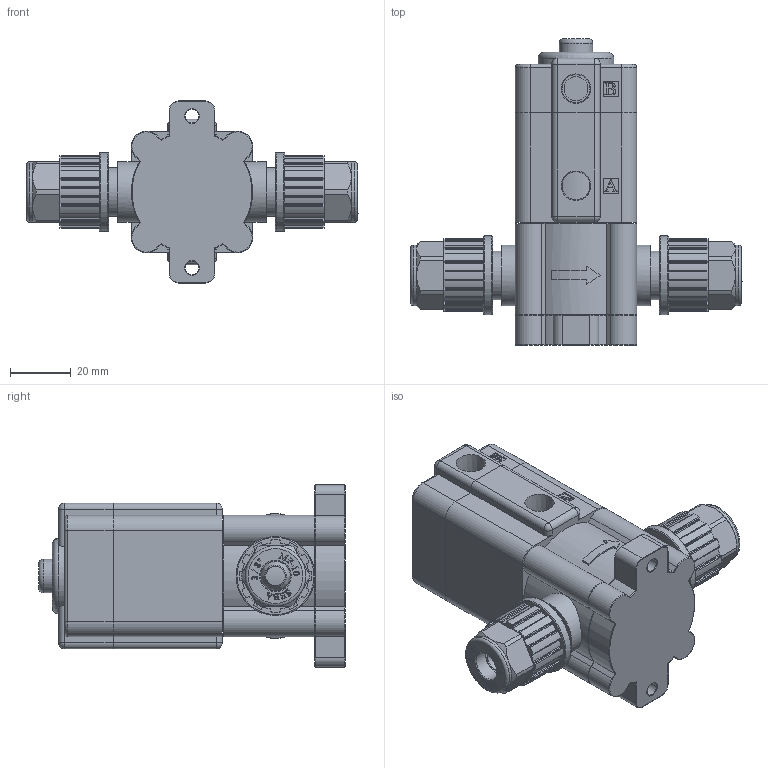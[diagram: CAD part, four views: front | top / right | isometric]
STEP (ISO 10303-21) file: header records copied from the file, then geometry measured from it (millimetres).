
FILE_DESCRIPTION(/* description */ (''),/* implementation_level */ '2;1');
FILE_NAME(/* name */ 'SANC-PA-MF010-A-0.stp',/* time_stamp */ '2020-01-20T14:03:49+09:00',/* author */ (''),/* organization */ (''),/* preprocessor_version */ 'ST-DEVELOPER v11',/* originating_system */ 'SIEMENS PLM Software NX 7.5',/* authorisation */ '');
FILE_SCHEMA (('AUTOMOTIVE_DESIGN { 1 0 10303 214 1 1 1 1 }'));
Length unit declared in the file: millimetre
Products named in the file (7): 3-8 PFA_Nut; 3-8 Body; Base; Cover; Case4--20513; Case4--; SANC-PA-MF010-A-0_stp
Assembly tree (7 placements, depth 2):
  SANC-PA-MF010-A-0_stp
    Case4--
    Case4--20513
    Cover
    Base
    3-8 Body
    3-8 PFA_Nut  x2
Bounding box: 109.4 x 101 x 60 mm (x, y, z)
Volume: 175270.3 mm3; surface area: 49804.1 mm2
Topology: 7 solids, 7 shells, 1225 faces, 3243 edges, 2113 vertices
Faces by surface type: plane 518, bspline 317, cylinder 312, torus 48, cone 22, sphere 8
Full cylindrical faces by diameter (mm): 4.5 x18, 5 x1, 6.4 x2, 7 x4, 7.9 x1, 9.8 x2, 10.8 x2, 11 x1, 14 x2, 14.4 x2, 15 x1, 16 x4, 20 x4, 26 x2, 32 x1, 33 x1
Entity records: 31182 total; most frequent: CARTESIAN_POINT 12446, ORIENTED_EDGE 4004, DIRECTION 3402, EDGE_CURVE 2002, VERTEX_POINT 1337, AXIS2_PLACEMENT_3D 1142, LINE 1118, VECTOR 1118
